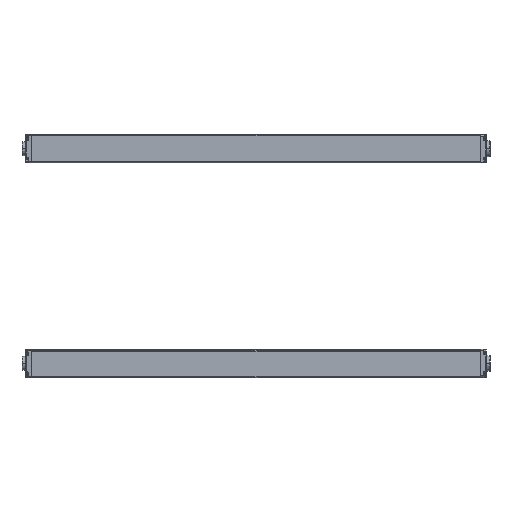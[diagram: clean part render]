
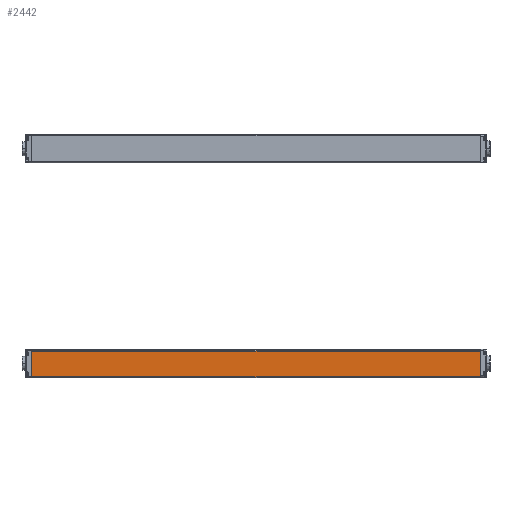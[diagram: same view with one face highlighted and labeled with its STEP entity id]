
A CAD part, left-side view. The second image highlights one B-rep face of the part: STEP entity #2442.
In plain terms, the highlighted planar face has unit normal (-1, 0, -0.009) as drawn and (1, 0, 0) by its records, which use the part's own axes.
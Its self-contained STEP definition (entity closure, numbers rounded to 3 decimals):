
#130 = EDGE_CURVE ( 'NONE', #8462, #12024, #5739, .T. ) ;
#1300 = DIRECTION ( 'NONE',  ( -1., 0., 0. ) ) ;
#1319 = VECTOR ( 'NONE', #7188, 1000. ) ;
#1619 = CARTESIAN_POINT ( 'NONE',  ( 15., 480., -16.9 ) ) ;
#2442 = ADVANCED_FACE ( 'NONE', ( #2662 ), #8231, .F. ) ;
#2448 = EDGE_CURVE ( 'NONE', #6036, #8462, #12426, .T. ) ;
#2662 = FACE_OUTER_BOUND ( 'NONE', #15854, .T. ) ;
#3573 = EDGE_CURVE ( 'NONE', #15966, #6036, #11580, .T. ) ;
#4603 = VECTOR ( 'NONE', #5474, 1000. ) ;
#4643 = DIRECTION ( 'NONE',  ( 0., -1., 0. ) ) ;
#4886 = ORIENTED_EDGE ( 'NONE', *, *, #7586, .F. ) ;
#5474 = DIRECTION ( 'NONE',  ( 0., 0., -1. ) ) ;
#5604 = ORIENTED_EDGE ( 'NONE', *, *, #2448, .T. ) ;
#5739 = LINE ( 'NONE', #11320, #6360 ) ;
#6036 = VERTEX_POINT ( 'NONE', #11192 ) ;
#6360 = VECTOR ( 'NONE', #16852, 1000. ) ;
#6859 = DIRECTION ( 'NONE',  ( 0., 0., 1. ) ) ;
#7188 = DIRECTION ( 'NONE',  ( 0., 0., -1. ) ) ;
#7586 = EDGE_CURVE ( 'NONE', #15966, #12024, #14108, .T. ) ;
#8231 = PLANE ( 'NONE',  #12476 ) ;
#8462 = VERTEX_POINT ( 'NONE', #13969 ) ;
#9079 = CARTESIAN_POINT ( 'NONE',  ( 15., 480., 10.9 ) ) ;
#9974 = ORIENTED_EDGE ( 'NONE', *, *, #3573, .T. ) ;
#10060 = ORIENTED_EDGE ( 'NONE', *, *, #130, .T. ) ;
#10337 = CARTESIAN_POINT ( 'NONE',  ( 15., 480., -16.693 ) ) ;
#11192 = CARTESIAN_POINT ( 'NONE',  ( 15., 0., 10.9 ) ) ;
#11320 = CARTESIAN_POINT ( 'NONE',  ( 15., 480., -16.693 ) ) ;
#11580 = LINE ( 'NONE', #17126, #14324 ) ;
#12024 = VERTEX_POINT ( 'NONE', #10337 ) ;
#12426 = LINE ( 'NONE', #17958, #4603 ) ;
#12476 = AXIS2_PLACEMENT_3D ( 'NONE', #13787, #1300, #6859 ) ;
#13787 = CARTESIAN_POINT ( 'NONE',  ( 15., 480., -16.9 ) ) ;
#13969 = CARTESIAN_POINT ( 'NONE',  ( 15., 0., -16.693 ) ) ;
#14108 = LINE ( 'NONE', #1619, #1319 ) ;
#14324 = VECTOR ( 'NONE', #4643, 1000. ) ;
#15854 = EDGE_LOOP ( 'NONE', ( #5604, #10060, #4886, #9974 ) ) ;
#15966 = VERTEX_POINT ( 'NONE', #9079 ) ;
#16852 = DIRECTION ( 'NONE',  ( 0., 1., 0. ) ) ;
#17126 = CARTESIAN_POINT ( 'NONE',  ( 15., 480., 10.9 ) ) ;
#17958 = CARTESIAN_POINT ( 'NONE',  ( 15., 0., -16.9 ) ) ;
